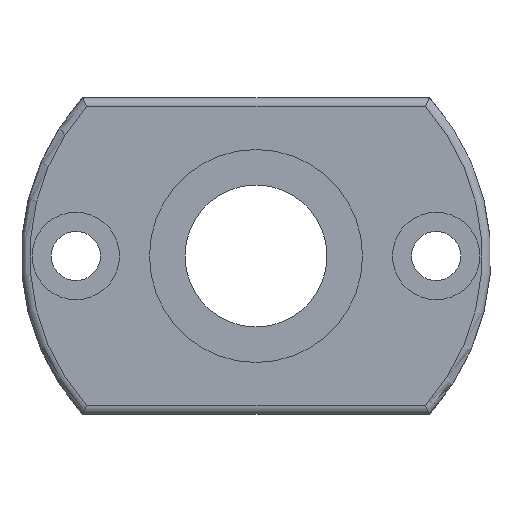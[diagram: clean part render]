
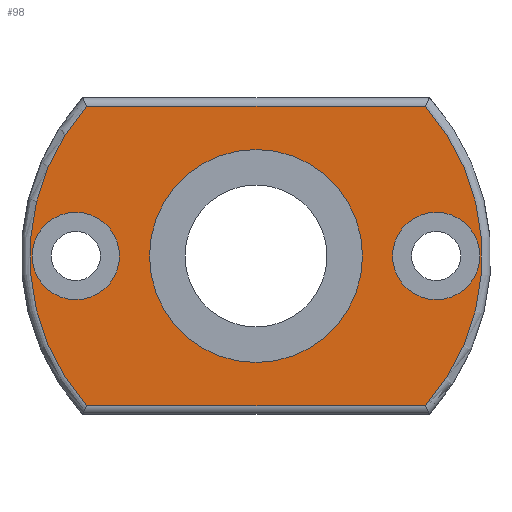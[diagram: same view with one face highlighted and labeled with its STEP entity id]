
A CAD part, left-side view. The second image highlights one B-rep face of the part: STEP entity #98.
In plain terms, the highlighted planar face has unit normal (-1, 0, 0).
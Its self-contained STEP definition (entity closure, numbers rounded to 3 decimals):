
#98 = ADVANCED_FACE( '', ( #210, #211, #212, #213 ), #214, .T. );
#210 = FACE_BOUND( '', #329, .T. );
#211 = FACE_BOUND( '', #330, .T. );
#212 = FACE_OUTER_BOUND( '', #331, .T. );
#213 = FACE_BOUND( '', #332, .T. );
#214 = PLANE( '', #333 );
#329 = EDGE_LOOP( '', ( #522 ) );
#330 = EDGE_LOOP( '', ( #523 ) );
#331 = EDGE_LOOP( '', ( #524, #525, #526, #527 ) );
#332 = EDGE_LOOP( '', ( #528 ) );
#333 = AXIS2_PLACEMENT_3D( '', #529, #530, #531 );
#522 = ORIENTED_EDGE( '', *, *, #612, .T. );
#523 = ORIENTED_EDGE( '', *, *, #578, .T. );
#524 = ORIENTED_EDGE( '', *, *, #628, .T. );
#525 = ORIENTED_EDGE( '', *, *, #636, .T. );
#526 = ORIENTED_EDGE( '', *, *, #641, .T. );
#527 = ORIENTED_EDGE( '', *, *, #632, .T. );
#528 = ORIENTED_EDGE( '', *, *, #610, .F. );
#529 = CARTESIAN_POINT( '', ( 0., 15.527, 0. ) );
#530 = DIRECTION( '', ( -1., 0., 0. ) );
#531 = DIRECTION( '', ( 0., 1., 0. ) );
#578 = EDGE_CURVE( '', #656, #656, #657, .T. );
#610 = EDGE_CURVE( '', #708, #708, #709, .T. );
#612 = EDGE_CURVE( '', #711, #711, #712, .T. );
#628 = EDGE_CURVE( '', #736, #734, #737, .T. );
#632 = EDGE_CURVE( '', #740, #736, #742, .T. );
#636 = EDGE_CURVE( '', #734, #745, #747, .T. );
#641 = EDGE_CURVE( '', #745, #740, #752, .T. );
#656 = VERTEX_POINT( '', #768 );
#657 = CIRCLE( '', #769, 4. );
#708 = VERTEX_POINT( '', #852 );
#709 = CIRCLE( '', #853, 9.754 );
#711 = VERTEX_POINT( '', #855 );
#712 = CIRCLE( '', #856, 4. );
#734 = VERTEX_POINT( '', #882 );
#736 = VERTEX_POINT( '', #891 );
#737 = CIRCLE( '', #892, 20.7 );
#740 = VERTEX_POINT( '', #902 );
#742 = LINE( '', #911, #912 );
#745 = VERTEX_POINT( '', #916 );
#747 = LINE( '', #925, #926 );
#752 = CIRCLE( '', #932, 20.7 );
#768 = CARTESIAN_POINT( '', ( 0., -20.5, 0. ) );
#769 = AXIS2_PLACEMENT_3D( '', #948, #949, #950 );
#852 = CARTESIAN_POINT( '', ( 0., 9.754, 0. ) );
#853 = AXIS2_PLACEMENT_3D( '', #997, #998, #999 );
#855 = CARTESIAN_POINT( '', ( 0., 20.5, 0. ) );
#856 = AXIS2_PLACEMENT_3D( '', #1000, #1001, #1002 );
#882 = CARTESIAN_POINT( '', ( 0., -15.518, 13.7 ) );
#891 = CARTESIAN_POINT( '', ( 0., -15.518, -13.7 ) );
#892 = AXIS2_PLACEMENT_3D( '', #1022, #1023, #1024 );
#902 = CARTESIAN_POINT( '', ( 0., 15.518, -13.7 ) );
#911 = CARTESIAN_POINT( '', ( 0., -14.773, -13.7 ) );
#912 = VECTOR( '', #1025, 1000. );
#916 = CARTESIAN_POINT( '', ( 0., 15.518, 13.7 ) );
#925 = CARTESIAN_POINT( '', ( 0., 14.773, 13.7 ) );
#926 = VECTOR( '', #1027, 1000. );
#932 = AXIS2_PLACEMENT_3D( '', #1032, #1033, #1034 );
#948 = CARTESIAN_POINT( '', ( 0., -16.5, 0. ) );
#949 = DIRECTION( '', ( 1., 0., 0. ) );
#950 = DIRECTION( '', ( 0., -1., 0. ) );
#997 = CARTESIAN_POINT( '', ( 0., 0., 0. ) );
#998 = DIRECTION( '', ( -1., 0., 0. ) );
#999 = DIRECTION( '', ( 0., 1., 0. ) );
#1000 = CARTESIAN_POINT( '', ( 0., 16.5, 0. ) );
#1001 = DIRECTION( '', ( 1., 0., 0. ) );
#1002 = DIRECTION( '', ( 0., 1., 0. ) );
#1022 = CARTESIAN_POINT( '', ( 0., 0., 0. ) );
#1023 = DIRECTION( '', ( -1., 0., 0. ) );
#1024 = DIRECTION( '', ( 0., 0., 1. ) );
#1025 = DIRECTION( '', ( 0., -1., 0. ) );
#1027 = DIRECTION( '', ( 0., 1., 0. ) );
#1032 = CARTESIAN_POINT( '', ( 0., 0., 0. ) );
#1033 = DIRECTION( '', ( -1., 0., 0. ) );
#1034 = DIRECTION( '', ( 0., 0., 1. ) );
